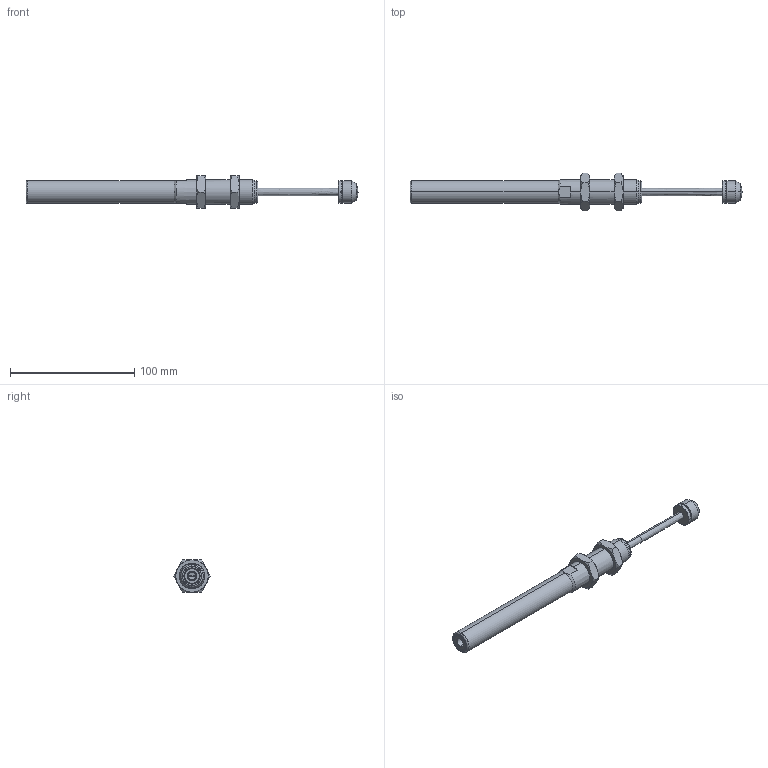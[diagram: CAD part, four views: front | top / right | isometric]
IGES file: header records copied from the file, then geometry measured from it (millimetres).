
Start section: SolidWorks IGES file using analytic representation for surfaces
Global section: file name: D:\IGS跡宒\AC2065-2KW-SH.IGS,1; native system: 5HSolidWorks 2013; preprocessor: SolidWorks 2013; author: Administrator; date: 160920.093727; units: inch
Bounding box: 267.2 x 30.02 x 26 mm (x, y, z)
Surface area: 17585.1 mm2 (no closed solid volume)
Topology: 0 solids, 0 shells, 106 faces, 1612 edges, 1611 vertices
Faces by surface type: revolution 74, bspline 32
